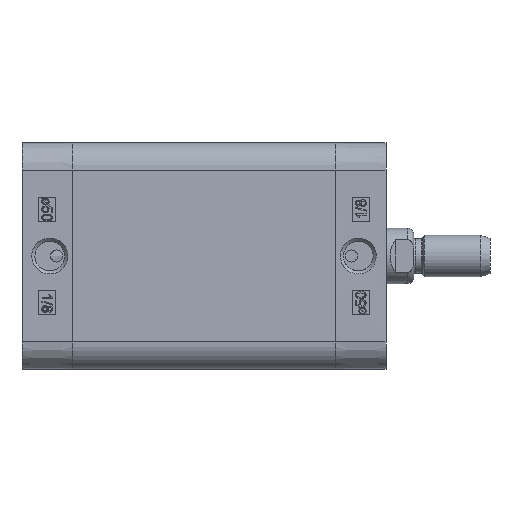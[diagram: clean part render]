
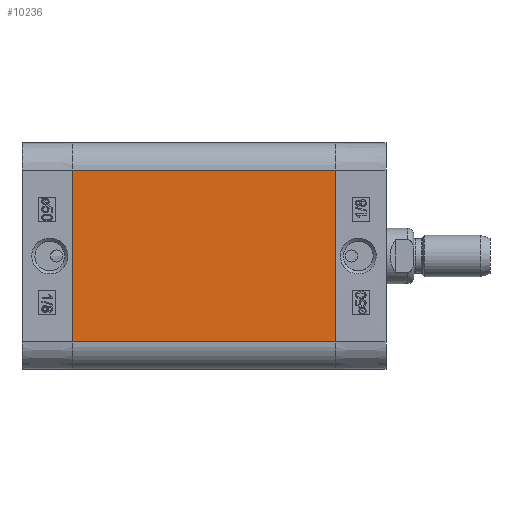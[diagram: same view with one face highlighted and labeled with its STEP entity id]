
A CAD part, left-side view. The second image highlights one B-rep face of the part: STEP entity #10236.
In plain terms, the highlighted planar face has unit normal (-1, 0, 0).
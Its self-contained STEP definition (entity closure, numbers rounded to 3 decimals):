
#5238=CARTESIAN_POINT('',(-32.75,-76.0,24.75));
#5239=VERTEX_POINT('',#5238);
#5246=CARTESIAN_POINT('',(-32.75,-76.0,-24.75));
#5247=VERTEX_POINT('',#5246);
#5248=CARTESIAN_POINT('',(-32.75,-76.0,-24.75));
#5249=DIRECTION('',(0.0,0.0,1.0));
#5250=VECTOR('',#5249,49.5);
#5251=LINE('',#5248,#5250);
#5252=EDGE_CURVE('',#5247,#5239,#5251,.T.);
#10194=CARTESIAN_POINT('',(-32.75,0.0,-24.75));
#10195=VERTEX_POINT('',#10194);
#10196=CARTESIAN_POINT('',(-32.75,0.0,-24.75));
#10197=DIRECTION('',(0.0,-1.0,0.0));
#10198=VECTOR('',#10197,76.0);
#10199=LINE('',#10196,#10198);
#10200=EDGE_CURVE('',#10195,#5247,#10199,.T.);
#10213=CARTESIAN_POINT('',(-32.75,0.0,-24.75));
#10214=DIRECTION('',(-1.0,0.0,0.0));
#10215=DIRECTION('',(0.0,0.0,1.0));
#10216=AXIS2_PLACEMENT_3D('',#10213,#10214,#10215);
#10217=PLANE('',#10216);
#10218=ORIENTED_EDGE('',*,*,#5252,.T.);
#10219=CARTESIAN_POINT('',(-32.75,0.0,24.75));
#10220=VERTEX_POINT('',#10219);
#10221=CARTESIAN_POINT('',(-32.75,0.0,24.75));
#10222=DIRECTION('',(0.0,-1.0,0.0));
#10223=VECTOR('',#10222,76.0);
#10224=LINE('',#10221,#10223);
#10225=EDGE_CURVE('',#10220,#5239,#10224,.T.);
#10226=ORIENTED_EDGE('',*,*,#10225,.F.);
#10227=CARTESIAN_POINT('',(-32.75,0.0,-24.75));
#10228=DIRECTION('',(0.0,0.0,1.0));
#10229=VECTOR('',#10228,49.5);
#10230=LINE('',#10227,#10229);
#10231=EDGE_CURVE('',#10195,#10220,#10230,.T.);
#10232=ORIENTED_EDGE('',*,*,#10231,.F.);
#10233=ORIENTED_EDGE('',*,*,#10200,.T.);
#10234=EDGE_LOOP('',(#10218,#10226,#10232,#10233));
#10235=FACE_OUTER_BOUND('',#10234,.T.);
#10236=ADVANCED_FACE('',(#10235),#10217,.T.);
